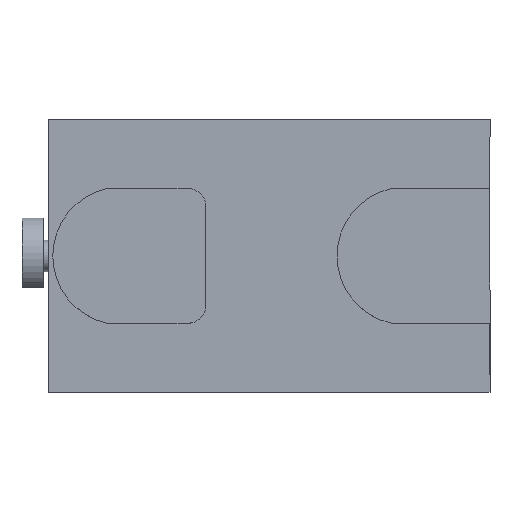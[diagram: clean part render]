
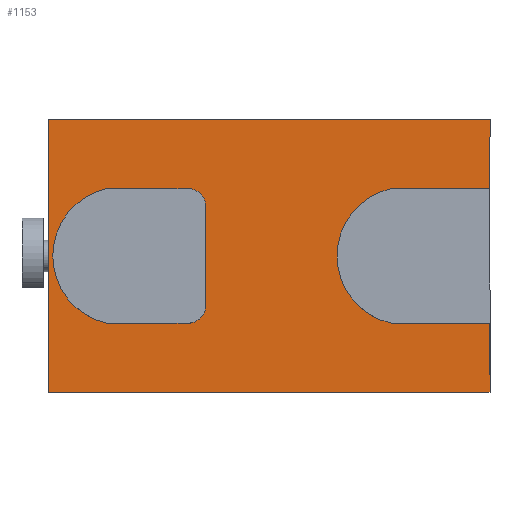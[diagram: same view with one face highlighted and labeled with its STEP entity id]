
A CAD part, top view. The second image highlights one B-rep face of the part: STEP entity #1153.
In plain terms, the highlighted planar face has unit normal (0, 0, 1).
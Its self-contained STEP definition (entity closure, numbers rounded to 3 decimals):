
#5 = DIRECTION ( 'NONE',  ( 1., 0., 0. ) ) ;
#7 = DIRECTION ( 'NONE',  ( 0., 0., 1. ) ) ;
#16 = LINE ( 'NONE', #597, #114 ) ;
#31 = VERTEX_POINT ( 'NONE', #354 ) ;
#54 = LINE ( 'NONE', #645, #517 ) ;
#74 = CARTESIAN_POINT ( 'NONE',  ( 62.3, -19., -0.2 ) ) ;
#114 = VECTOR ( 'NONE', #191, 1000. ) ;
#120 = AXIS2_PLACEMENT_3D ( 'NONE', #287, #294, #5 ) ;
#129 = EDGE_LOOP ( 'NONE', ( #1326, #174, #947, #260, #744, #1478 ) ) ;
#160 = LINE ( 'NONE', #909, #765 ) ;
#174 = ORIENTED_EDGE ( 'NONE', *, *, #1090, .F. ) ;
#191 = DIRECTION ( 'NONE',  ( 1., 0., 0. ) ) ;
#197 = FACE_OUTER_BOUND ( 'NONE', #1171, .T. ) ;
#208 = LINE ( 'NONE', #499, #1372 ) ;
#240 = VECTOR ( 'NONE', #525, 1000. ) ;
#253 = VERTEX_POINT ( 'NONE', #312 ) ;
#260 = ORIENTED_EDGE ( 'NONE', *, *, #1607, .F. ) ;
#267 = EDGE_CURVE ( 'NONE', #1276, #419, #16, .T. ) ;
#279 = EDGE_CURVE ( 'NONE', #1495, #723, #208, .T. ) ;
#287 = CARTESIAN_POINT ( 'NONE',  ( 38.56, 0., -0.2 ) ) ;
#294 = DIRECTION ( 'NONE',  ( 0., 0., -1. ) ) ;
#307 = CIRCLE ( 'NONE', #1871, 19.46 ) ;
#310 = CARTESIAN_POINT ( 'NONE',  ( -41.74, 0., -0.2 ) ) ;
#312 = CARTESIAN_POINT ( 'NONE',  ( 62.3, 38.5, -0.2 ) ) ;
#326 = ORIENTED_EDGE ( 'NONE', *, *, #279, .T. ) ;
#346 = EDGE_CURVE ( 'NONE', #1852, #350, #1844, .T. ) ;
#350 = VERTEX_POINT ( 'NONE', #1811 ) ;
#354 = CARTESIAN_POINT ( 'NONE',  ( -18., 14., -0.2 ) ) ;
#356 = CARTESIAN_POINT ( 'NONE',  ( -23., 19., -0.2 ) ) ;
#372 = ORIENTED_EDGE ( 'NONE', *, *, #503, .T. ) ;
#388 = CARTESIAN_POINT ( 'NONE',  ( -23., -19., -0.2 ) ) ;
#394 = CARTESIAN_POINT ( 'NONE',  ( -62.3, -38.5, -0.2 ) ) ;
#419 = VERTEX_POINT ( 'NONE', #388 ) ;
#467 = CARTESIAN_POINT ( 'NONE',  ( 34.354, -19., -0.2 ) ) ;
#473 = CARTESIAN_POINT ( 'NONE',  ( 62.3, 19., -0.2 ) ) ;
#491 = EDGE_CURVE ( 'NONE', #1364, #253, #1295, .T. ) ;
#499 = CARTESIAN_POINT ( 'NONE',  ( -62.3, 38.7, -0.2 ) ) ;
#501 = CARTESIAN_POINT ( 'NONE',  ( -18., 14., -0.2 ) ) ;
#503 = EDGE_CURVE ( 'NONE', #350, #1135, #1004, .T. ) ;
#504 = DIRECTION ( 'NONE',  ( 1., 0., 0. ) ) ;
#517 = VECTOR ( 'NONE', #504, 1000. ) ;
#525 = DIRECTION ( 'NONE',  ( 0., 1., 0. ) ) ;
#581 = DIRECTION ( 'NONE',  ( 0., 1., 0. ) ) ;
#597 = CARTESIAN_POINT ( 'NONE',  ( -45.946, -19., -0.2 ) ) ;
#600 = CARTESIAN_POINT ( 'NONE',  ( -45.946, 19., -0.2 ) ) ;
#624 = DIRECTION ( 'NONE',  ( 1., 0., 0. ) ) ;
#645 = CARTESIAN_POINT ( 'NONE',  ( -62.3, -38.5, -0.2 ) ) ;
#722 = CARTESIAN_POINT ( 'NONE',  ( 62.3, -19., -0.2 ) ) ;
#723 = VERTEX_POINT ( 'NONE', #394 ) ;
#740 = CARTESIAN_POINT ( 'NONE',  ( -23., 14., -0.2 ) ) ;
#744 = ORIENTED_EDGE ( 'NONE', *, *, #1682, .F. ) ;
#746 = DIRECTION ( 'NONE',  ( 1., 0., 0. ) ) ;
#765 = VECTOR ( 'NONE', #746, 1000. ) ;
#769 = LINE ( 'NONE', #501, #825 ) ;
#780 = EDGE_CURVE ( 'NONE', #1135, #1492, #798, .T. ) ;
#798 = CIRCLE ( 'NONE', #120, 19.46 ) ;
#819 = VERTEX_POINT ( 'NONE', #1767 ) ;
#825 = VECTOR ( 'NONE', #1241, 1000. ) ;
#833 = EDGE_CURVE ( 'NONE', #1890, #819, #1666, .T. ) ;
#844 = ORIENTED_EDGE ( 'NONE', *, *, #1587, .F. ) ;
#903 = DIRECTION ( 'NONE',  ( 1., 0., 0. ) ) ;
#906 = ORIENTED_EDGE ( 'NONE', *, *, #1432, .T. ) ;
#909 = CARTESIAN_POINT ( 'NONE',  ( -62.3, 38.5, -0.2 ) ) ;
#915 = PLANE ( 'NONE',  #1068 ) ;
#927 = EDGE_CURVE ( 'NONE', #419, #1025, #1189, .T. ) ;
#947 = ORIENTED_EDGE ( 'NONE', *, *, #833, .F. ) ;
#952 = AXIS2_PLACEMENT_3D ( 'NONE', #740, #1336, #1764 ) ;
#1004 = LINE ( 'NONE', #722, #1564 ) ;
#1025 = VERTEX_POINT ( 'NONE', #1141 ) ;
#1055 = CARTESIAN_POINT ( 'NONE',  ( 38.56, 0., -0.2 ) ) ;
#1060 = DIRECTION ( 'NONE',  ( 0., 0., 1. ) ) ;
#1068 = AXIS2_PLACEMENT_3D ( 'NONE', #1055, #1810, #624 ) ;
#1073 = LINE ( 'NONE', #1521, #1565 ) ;
#1090 = EDGE_CURVE ( 'NONE', #819, #1276, #307, .T. ) ;
#1135 = VERTEX_POINT ( 'NONE', #467 ) ;
#1141 = CARTESIAN_POINT ( 'NONE',  ( -18., -14., -0.2 ) ) ;
#1153 = ADVANCED_FACE ( 'NONE', ( #197, #1649 ), #915, .T. ) ;
#1171 = EDGE_LOOP ( 'NONE', ( #844, #326, #906, #1202, #372, #1886, #1732, #1612 ) ) ;
#1172 = DIRECTION ( 'NONE',  ( 1., 0., 0. ) ) ;
#1189 = CIRCLE ( 'NONE', #1377, 5. ) ;
#1202 = ORIENTED_EDGE ( 'NONE', *, *, #346, .T. ) ;
#1241 = DIRECTION ( 'NONE',  ( 0., 1., 0. ) ) ;
#1253 = VECTOR ( 'NONE', #1788, 1000. ) ;
#1276 = VERTEX_POINT ( 'NONE', #1541 ) ;
#1279 = DIRECTION ( 'NONE',  ( -1., 0., 0. ) ) ;
#1291 = CARTESIAN_POINT ( 'NONE',  ( 34.354, 19., -0.2 ) ) ;
#1295 = LINE ( 'NONE', #1459, #1501 ) ;
#1310 = EDGE_CURVE ( 'NONE', #1492, #1364, #1073, .T. ) ;
#1326 = ORIENTED_EDGE ( 'NONE', *, *, #267, .F. ) ;
#1336 = DIRECTION ( 'NONE',  ( 0., 0., 1. ) ) ;
#1364 = VERTEX_POINT ( 'NONE', #473 ) ;
#1372 = VECTOR ( 'NONE', #1517, 1000. ) ;
#1377 = AXIS2_PLACEMENT_3D ( 'NONE', #1671, #1060, #903 ) ;
#1432 = EDGE_CURVE ( 'NONE', #723, #1852, #54, .T. ) ;
#1459 = CARTESIAN_POINT ( 'NONE',  ( 62.3, 38.7, -0.2 ) ) ;
#1478 = ORIENTED_EDGE ( 'NONE', *, *, #927, .F. ) ;
#1492 = VERTEX_POINT ( 'NONE', #1291 ) ;
#1495 = VERTEX_POINT ( 'NONE', #1573 ) ;
#1501 = VECTOR ( 'NONE', #581, 1000. ) ;
#1517 = DIRECTION ( 'NONE',  ( 0., -1., 0. ) ) ;
#1521 = CARTESIAN_POINT ( 'NONE',  ( 62.3, 19., -0.2 ) ) ;
#1541 = CARTESIAN_POINT ( 'NONE',  ( -45.946, -19., -0.2 ) ) ;
#1564 = VECTOR ( 'NONE', #1279, 1000. ) ;
#1565 = VECTOR ( 'NONE', #1789, 1000. ) ;
#1573 = CARTESIAN_POINT ( 'NONE',  ( -62.3, 38.5, -0.2 ) ) ;
#1587 = EDGE_CURVE ( 'NONE', #1495, #253, #160, .T. ) ;
#1607 = EDGE_CURVE ( 'NONE', #31, #1890, #1830, .T. ) ;
#1612 = ORIENTED_EDGE ( 'NONE', *, *, #491, .T. ) ;
#1649 = FACE_BOUND ( 'NONE', #129, .T. ) ;
#1666 = LINE ( 'NONE', #600, #1253 ) ;
#1671 = CARTESIAN_POINT ( 'NONE',  ( -23., -14., -0.2 ) ) ;
#1682 = EDGE_CURVE ( 'NONE', #1025, #31, #769, .T. ) ;
#1697 = CARTESIAN_POINT ( 'NONE',  ( 62.3, -38.5, -0.2 ) ) ;
#1732 = ORIENTED_EDGE ( 'NONE', *, *, #1310, .T. ) ;
#1764 = DIRECTION ( 'NONE',  ( 1., 0., 0. ) ) ;
#1767 = CARTESIAN_POINT ( 'NONE',  ( -45.946, 19., -0.2 ) ) ;
#1788 = DIRECTION ( 'NONE',  ( -1., 0., 0. ) ) ;
#1789 = DIRECTION ( 'NONE',  ( 1., 0., 0. ) ) ;
#1810 = DIRECTION ( 'NONE',  ( 0., 0., 1. ) ) ;
#1811 = CARTESIAN_POINT ( 'NONE',  ( 62.3, -19., -0.2 ) ) ;
#1830 = CIRCLE ( 'NONE', #952, 5. ) ;
#1844 = LINE ( 'NONE', #74, #240 ) ;
#1852 = VERTEX_POINT ( 'NONE', #1697 ) ;
#1871 = AXIS2_PLACEMENT_3D ( 'NONE', #310, #7, #1172 ) ;
#1886 = ORIENTED_EDGE ( 'NONE', *, *, #780, .T. ) ;
#1890 = VERTEX_POINT ( 'NONE', #356 ) ;
